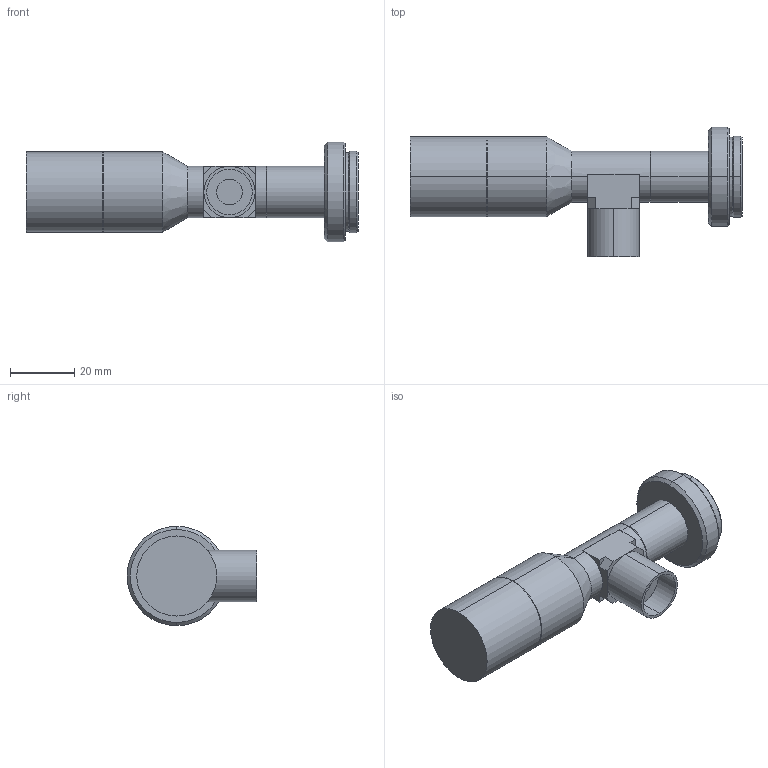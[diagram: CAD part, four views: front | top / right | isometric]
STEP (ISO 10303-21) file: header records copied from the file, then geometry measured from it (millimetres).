
FILE_DESCRIPTION (( 'STEP AP214' ), '1' );
FILE_NAME ('VS-TC08-65CO.STEP', '2020-08-17T05:15:00', ( '' ), ( '' ), 'SwSTEP 2.0', 'SolidWorks 2020', '' );
FILE_SCHEMA (( 'AUTOMOTIVE_DESIGN' ));
Length unit declared in the file: millimetre
Products named in the file (1): VS-TC08-65CO
Bounding box: 103.6 x 40.5 x 31 mm (x, y, z)
Volume: 41320 mm3; surface area: 10325.6 mm2
Topology: 1 solids, 1 shells, 68 faces, 146 edges, 84 vertices
Faces by surface type: plane 29, cylinder 21, cone 18
Entity records: 1842 total; most frequent: DIRECTION 342, CARTESIAN_POINT 299, ORIENTED_EDGE 292, EDGE_CURVE 146, AXIS2_PLACEMENT_3D 127, LINE 88, VECTOR 88, VERTEX_POINT 84
